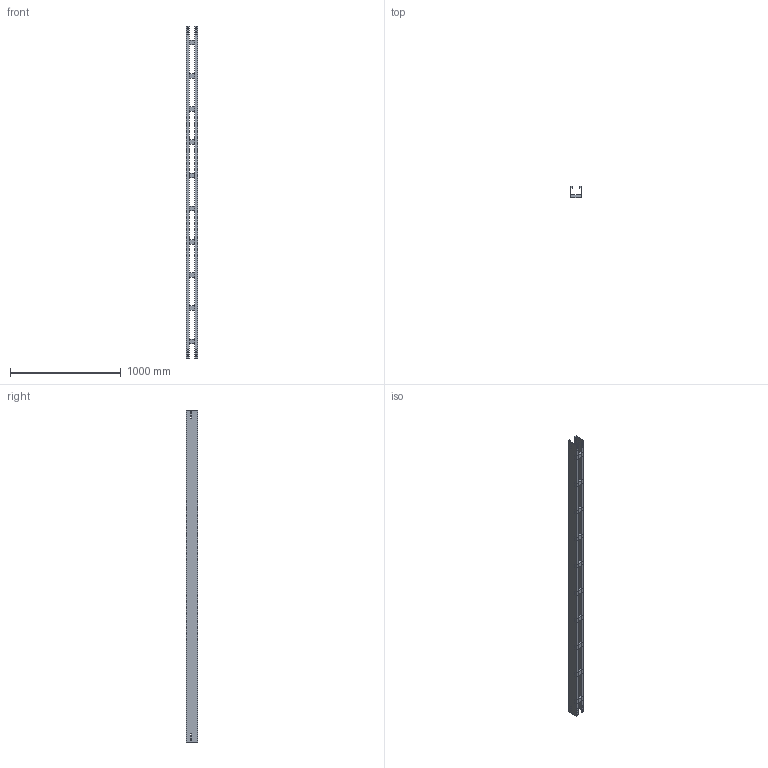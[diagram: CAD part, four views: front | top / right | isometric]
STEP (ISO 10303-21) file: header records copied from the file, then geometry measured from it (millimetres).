
FILE_DESCRIPTION (( 'STEP AP214' ), '1' );
FILE_NAME ('01B3D100.step', '2025-02-21T15:59:31', ( '' ), ( '' ), 'SwSTEP 2.0', 'SolidWorks 2023', '' );
FILE_SCHEMA (( 'AUTOMOTIVE_DESIGN' ));
Length unit declared in the file: millimetre
Products named in the file (3): 01B3D100; TRAVERSINO_100; LONGH.H100
Assembly tree (12 placements, depth 2):
  01B3D100
    LONGH.H100  x2
    TRAVERSINO_100  x10
Bounding box: 100 x 100 x 3000 mm (x, y, z)
Volume: 3424672 mm3; surface area: 1847056 mm2
Topology: 12 solids, 12 shells, 144 faces, 360 edges, 240 vertices
Faces by surface type: plane 144
Entity records: 1696 total; most frequent: CARTESIAN_POINT 283, ORIENTED_EDGE 264, DIRECTION 258, LINE 132, EDGE_CURVE 132, VECTOR 132, VERTEX_POINT 88, EDGE_LOOP 64
